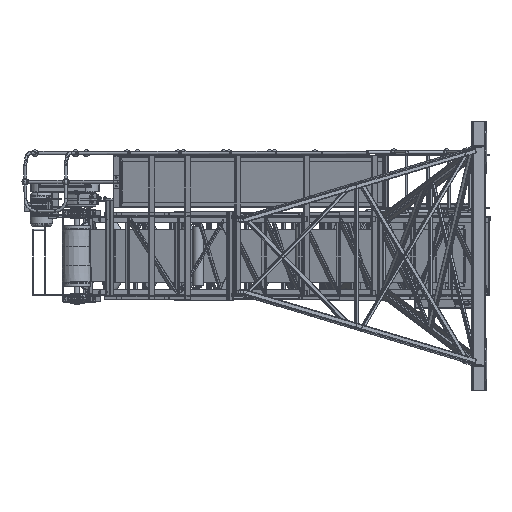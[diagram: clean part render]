
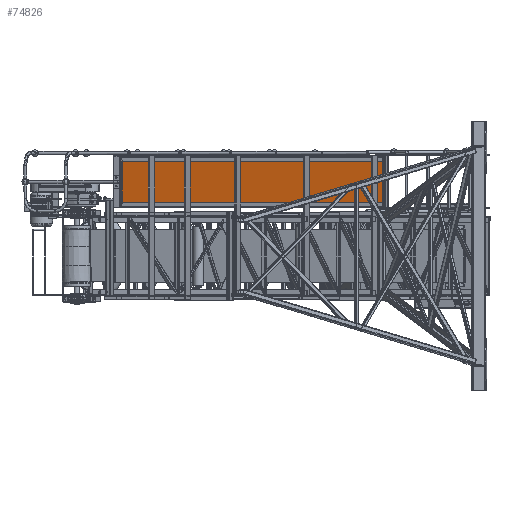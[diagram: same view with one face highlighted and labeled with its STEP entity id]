
A CAD part, left-side view. The second image highlights one B-rep face of the part: STEP entity #74826.
In plain terms, the highlighted planar face has unit normal (-0.358, -0.934, 0) as drawn and (0, -1, 0) by its records, which use the part's own axes.
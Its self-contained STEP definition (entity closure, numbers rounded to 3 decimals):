
#48427=PLANE('',#140814);
#52957=FACE_OUTER_BOUND('',#83436,.T.);
#61012=LINE('',#201108,#69415);
#61015=LINE('',#201114,#69418);
#61017=LINE('',#201118,#69420);
#61019=LINE('',#201122,#69422);
#69415=VECTOR('',#164353,1.);
#69418=VECTOR('',#164358,1.);
#69420=VECTOR('',#164362,1.);
#69422=VECTOR('',#164366,1.);
#74826=ADVANCED_FACE('',(#52957),#48427,.F.);
#83436=EDGE_LOOP('',(#107926,#107927,#107928,#107929));
#107926=ORIENTED_EDGE('',*,*,#130048,.F.);
#107927=ORIENTED_EDGE('',*,*,#130046,.F.);
#107928=ORIENTED_EDGE('',*,*,#130044,.F.);
#107929=ORIENTED_EDGE('',*,*,#130041,.F.);
#117495=VERTEX_POINT('',#201109);
#117496=VERTEX_POINT('',#201110);
#117497=VERTEX_POINT('',#201115);
#117498=VERTEX_POINT('',#201119);
#130041=EDGE_CURVE('',#117495,#117496,#61012,.T.);
#130044=EDGE_CURVE('',#117496,#117497,#61015,.T.);
#130046=EDGE_CURVE('',#117497,#117498,#61017,.T.);
#130048=EDGE_CURVE('',#117498,#117495,#61019,.T.);
#140814=AXIS2_PLACEMENT_3D('',#201124,#164369,#164370);
#164353=DIRECTION('',(0.,0.,-1.));
#164358=DIRECTION('',(-1.,0.,0.));
#164362=DIRECTION('',(0.,0.,1.));
#164366=DIRECTION('',(1.,0.,0.));
#164369=DIRECTION('',(0.,1.,0.));
#164370=DIRECTION('',(0.,0.,1.));
#201108=CARTESIAN_POINT('',(1068.,0.,-3547.5));
#201109=CARTESIAN_POINT('',(1068.,0.,685.));
#201110=CARTESIAN_POINT('',(1068.,0.,-7780.));
#201114=CARTESIAN_POINT('',(778.,0.,-7780.));
#201115=CARTESIAN_POINT('',(488.,0.,-7780.));
#201118=CARTESIAN_POINT('',(488.,0.,-3547.5));
#201119=CARTESIAN_POINT('',(488.,0.,685.));
#201122=CARTESIAN_POINT('',(778.,0.,685.));
#201124=CARTESIAN_POINT('',(778.,0.,-3547.5));
